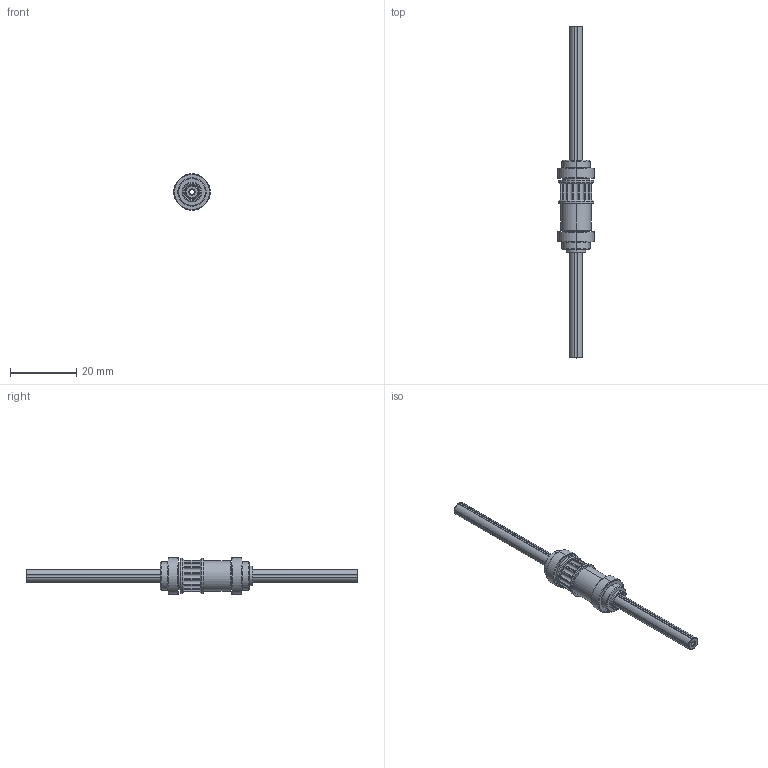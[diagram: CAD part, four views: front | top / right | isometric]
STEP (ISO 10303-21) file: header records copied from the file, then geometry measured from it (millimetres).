
FILE_DESCRIPTION (( 'STEP AP203' ), '1' );
FILE_NAME ('HRSU04-ST-GTL-100T-20_HP.STEP', '2023-03-31T01:27:06', ( '' ), ( '' ), 'SwSTEP 2.0', 'SolidWorks 2023', '' );
FILE_SCHEMA (( 'CONFIG_CONTROL_DESIGN' ));
Length unit declared in the file: millimetre
Products named in the file (1): HRSU04-ST-GTL-100T-20_HP
Bounding box: 11 x 100 x 11 mm (x, y, z)
Volume: 2585.7 mm3; surface area: 3410.1 mm2
Topology: 2 solids, 2 shells, 217 faces, 530 edges, 336 vertices
Faces by surface type: cylinder 152, cone 34, plane 23, torus 8
Entity records: 6635 total; most frequent: DIRECTION 1246, CARTESIAN_POINT 1220, ORIENTED_EDGE 1060, AXIS2_PLACEMENT_3D 530, EDGE_CURVE 530, VERTEX_POINT 336, CIRCLE 312, EDGE_LOOP 240
